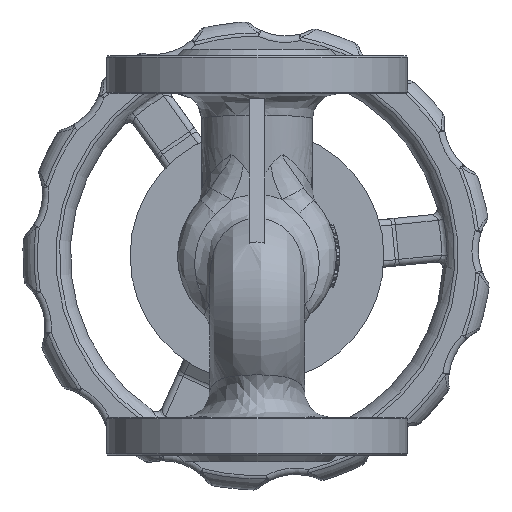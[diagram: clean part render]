
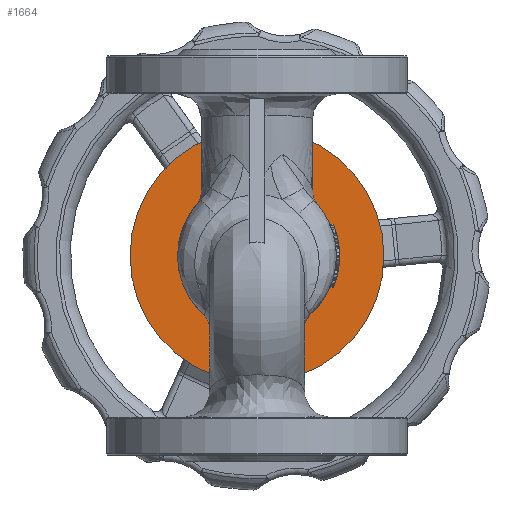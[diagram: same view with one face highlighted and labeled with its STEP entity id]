
A CAD part, front view. The second image highlights one B-rep face of the part: STEP entity #1664.
In plain terms, the highlighted planar face has unit normal (0, -1, 0).
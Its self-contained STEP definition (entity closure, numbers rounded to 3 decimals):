
#1664=ADVANCED_FACE('',(#11367,#11369),#11371,.F.);
#11367=FACE_BOUND('',#11368,.T.);
#11368=EDGE_LOOP('',(#29006));
#11369=FACE_BOUND('',#11370,.T.);
#11370=EDGE_LOOP('',(#29007));
#11371=PLANE('',#11372);
#11372=AXIS2_PLACEMENT_3D('',#11373,#11374,#11375);
#11373=CARTESIAN_POINT('',(0.,29.845,0.));
#11374=DIRECTION('',(0.,1.,0.));
#11375=DIRECTION('',(0.,0.,-1.));
#29006=ORIENTED_EDGE('',*,*,#34537,.F.);
#29007=ORIENTED_EDGE('',*,*,#34697,.F.);
#34537=EDGE_CURVE('',#37533,#37533,#37534,.T.);
#34697=EDGE_CURVE('',#37801,#37801,#37802,.T.);
#37533=VERTEX_POINT('',#45192);
#37534=CIRCLE('',#45193,40.);
#37801=VERTEX_POINT('',#46174);
#37802=CIRCLE('',#46175,22.);
#45192=CARTESIAN_POINT('',(0.,29.845,-40.));
#45193=AXIS2_PLACEMENT_3D('',#45194,#45195,#45196);
#45194=CARTESIAN_POINT('',(0.,29.845,0.));
#45195=DIRECTION('',(0.,1.,0.));
#45196=DIRECTION('',(0.,0.,-1.));
#46174=CARTESIAN_POINT('',(0.,29.845,-22.));
#46175=AXIS2_PLACEMENT_3D('',#46176,#46177,#46178);
#46176=CARTESIAN_POINT('',(0.,29.845,0.));
#46177=DIRECTION('',(0.,-1.,0.));
#46178=DIRECTION('',(0.,0.,-1.));
